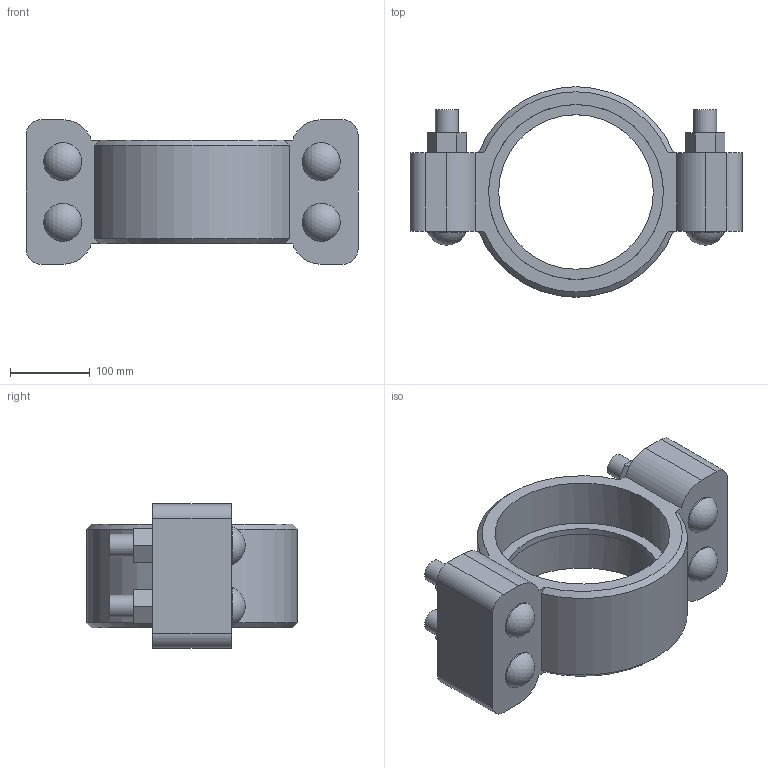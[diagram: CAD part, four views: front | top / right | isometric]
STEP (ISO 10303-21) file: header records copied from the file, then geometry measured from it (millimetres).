
FILE_DESCRIPTION(/* description */ ('VIC HIGH-PRESSURE COUPLING STYLE 809N ','CAx-IF Rec.Pracs.---Representation and Presentation of Product Manufacturing Information (PMI)---4.0---2014-10-13'),/* implementation_level */ '2;1');
FILE_NAME(/* name */ 'C:\Users\kkamble\AppData\Roaming\Autodesk\ApplicationPlugins\Back Up\Victaulic_Vic-Ring_Coupling Flexible High-Pressure_Style 809N (OGR)\Victaulic_Vic-Ring_Coupling Flexible High-Pressure_Style 809N (OGR)_8 (200).stp',/* time_stamp */ '2020-09-15T20:14:22+06:00',/* author */ ('jbrannon'),/* organization */ ('Victaulic'),/* preprocessor_version */ 'ST-DEVELOPER v17.2',/* originating_system */ 'Autodesk Inventor 2019',/* authorisation */ '');
FILE_SCHEMA (('AP242_MANAGED_MODEL_BASED_3D_ENGINEERING_MIM_LF { 1 0 10303 442 1 1 4 }'));
Length unit declared in the file: inch
Products named in the file (1): 809N-08.0
Bounding box: 416.05 x 263.65 x 181.1 mm (x, y, z)
Volume: 5113242.2 mm3; surface area: 457696.8 mm2
Topology: 1 solids, 5 shells, 103 faces, 265 edges, 186 vertices
Faces by surface type: plane 62, cylinder 33, sphere 4, cone 4
Full cylindrical faces by diameter (mm): 28.575 x8, 47.625 x4, 193.675 x1, 219.075 x2
Entity records: 3458 total; most frequent: DIRECTION 589, CARTESIAN_POINT 588, ORIENTED_EDGE 530, EDGE_CURVE 265, AXIS2_PLACEMENT_3D 215, VERTEX_POINT 186, LINE 159, VECTOR 159
